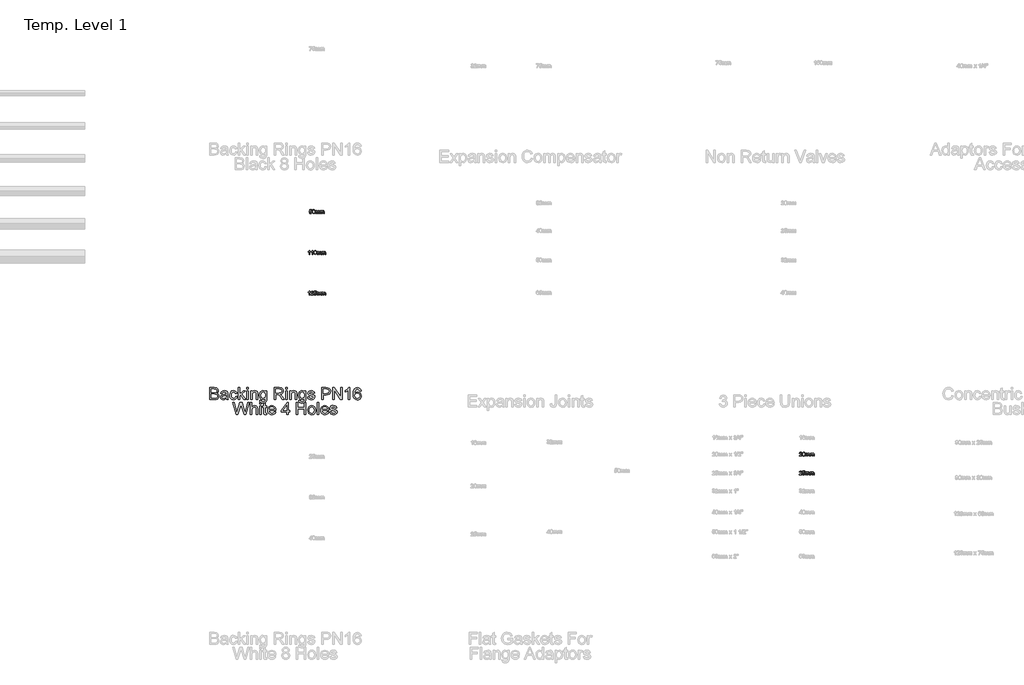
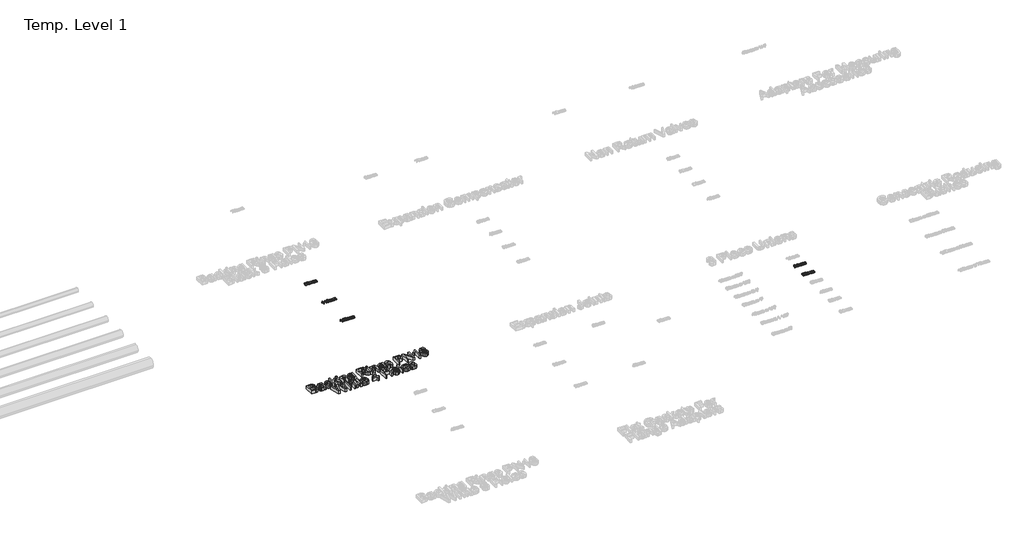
# One storey, part 14 of 62: 6 proxies.
"""IFC4 building model written with IfcOpenShell, lengths in millimetres."""

import ifcopenshell
import ifcopenshell.guid

model = None  # the IFC model being written
_history = None  # IfcOwnerHistory: only IFC2X3 demands one
_inside = {}  # id of a spatial element -> (the spatial element, [elements in it])
_under = {}  # id of a project, library or spatial element -> (it, [spatial elements below it])
_declared = {}  # id of a project -> (the project, [libraries it declares])
_typed = {}  # id of a type object -> (the type object, [elements of that type])
_made_of = {}  # id of a material, layer set ... -> (it, [elements and type objects made of it])


def new_model(schema):
    """Start an empty IFC model of exactly this schema.

    Asked for "IFC4X3", IfcOpenShell would pick the latest addendum, in which some entities
    have other attributes; the version numbers below select the first issue.
    IFC2X3 requires an IfcOwnerHistory on every rooted entity: one is made here for all.
    """
    global model, _history
    if schema == "IFC4X3":
        model = ifcopenshell.file(schema_version=(4, 3, 0, 0))
    else:
        model = ifcopenshell.file(schema=schema)
    _inside.clear()
    _under.clear()
    _declared.clear()
    _typed.clear()
    _made_of.clear()
    _history = None
    if model.schema == "IFC2X3":
        org = make("IfcOrganization", Name="unknown")
        user = make(
            "IfcPersonAndOrganization",
            ThePerson=make("IfcPerson", FamilyName="unknown"),
            TheOrganization=org,
        )
        app = make(
            "IfcApplication",
            ApplicationDeveloper=org,
            Version="unknown",
            ApplicationFullName="unknown",
            ApplicationIdentifier="unknown",
        )
        _history = make(
            "IfcOwnerHistory",
            OwningUser=user,
            OwningApplication=app,
            ChangeAction="ADDED",
            CreationDate=0,
        )
    return model


def make(cls, **values):
    """One entity of the class cls with the attributes given. An attribute that is None is left unset."""
    return model.create_entity(
        cls, **{name: value for name, value in values.items() if value is not None}
    )


def rooted(cls, **values):
    """An entity with a GlobalId (a new one), such as an element, a storey or a relation."""
    return make(cls, GlobalId=ifcopenshell.guid.new(), OwnerHistory=_history, **values)


def si_unit(unit_type, name, prefix=None):
    """IfcSIUnit, for example si_unit("LENGTHUNIT", "METRE", prefix="MILLI")."""
    return make("IfcSIUnit", UnitType=unit_type, Prefix=prefix, Name=name)


def assignment(units):
    """IfcUnitAssignment: the units of a project."""
    return None if units is None else make("IfcUnitAssignment", Units=units)


def point(xyz):
    """IfcCartesianPoint."""
    return None if xyz is None else make("IfcCartesianPoint", Coordinates=xyz)


def direction(xyz):
    """IfcDirection."""
    return None if xyz is None else make("IfcDirection", DirectionRatios=xyz)


def frame(location, z_axis=None, x_axis=None):
    """IfcAxis2Placement3D, a coordinate frame: its origin and axes. An axis left out is left unset."""
    return make(
        "IfcAxis2Placement3D",
        Location=point(location),
        Axis=direction(z_axis),
        RefDirection=direction(x_axis),
    )


def origin():
    """The frame at (0, 0, 0) with its axes left unset."""
    return frame((0.0, 0.0, 0.0))


def origin_with_axes():
    """The frame at (0, 0, 0) with the z axis (0, 0, 1) and the x axis (1, 0, 0) written out."""
    return frame((0.0, 0.0, 0.0), z_axis=(0.0, 0.0, 1.0), x_axis=(1.0, 0.0, 0.0))


def place(relative_to, where):
    """IfcLocalPlacement: puts the frame where relative to a parent placement (None: the world)."""
    return make(
        "IfcLocalPlacement", PlacementRelTo=relative_to, RelativePlacement=where
    )


def context(
    kind, dimensions, precision=None, world=None, true_north=None, identifier=None
):
    """IfcGeometricRepresentationContext, for example the 3D "Model" context."""
    return make(
        "IfcGeometricRepresentationContext",
        ContextIdentifier=identifier,
        ContextType=kind,
        CoordinateSpaceDimension=dimensions,
        Precision=precision,
        WorldCoordinateSystem=world,
        TrueNorth=true_north,
    )


def project(units=None, contexts=None):
    """IfcProject with its units and contexts."""
    return rooted(
        "IfcProject",
        Name="project",
        RepresentationContexts=contexts,
        UnitsInContext=assignment(units),
    )


def spatial(cls, under=None, at=None, **own):
    """A site, building, storey or space (cls), placed at a placement, below another one or the project."""
    s = rooted(cls, ObjectPlacement=at, **own)
    if under is not None:
        _under.setdefault(under.id(), (under, []))[1].append(s)
    return s


def polyline(points):
    """IfcPolyline through the points."""
    return make("IfcPolyline", Points=[point(p) for p in points])


def outline(outer, holes=None, kind="AREA"):
    """IfcArbitraryClosedProfileDef: a profile drawn as a closed curve; with holes, ...WithVoids."""
    if holes is None:
        return make("IfcArbitraryClosedProfileDef", ProfileType=kind, OuterCurve=outer)
    return make(
        "IfcArbitraryProfileDefWithVoids",
        ProfileType=kind,
        OuterCurve=outer,
        InnerCurves=holes,
    )


def extrude(swept, where, along, depth):
    """IfcExtrudedAreaSolid: the profile swept, set in the frame where, extruded along a direction by depth."""
    return make(
        "IfcExtrudedAreaSolid",
        SweptArea=swept,
        Position=where,
        ExtrudedDirection=direction(along),
        Depth=depth,
    )


def shape(context_of_items, identifier, shape_type, items):
    """IfcShapeRepresentation: the items that make up one representation, for example the "Body"."""
    return make(
        "IfcShapeRepresentation",
        ContextOfItems=context_of_items,
        RepresentationIdentifier=identifier,
        RepresentationType=shape_type,
        Items=items,
    )


def made_of(thing, what):
    """Note that an element or type object is made of a material, layer set ...; save() writes the relation."""
    if what is not None:
        _made_of.setdefault(what.id(), (what, []))[1].append(thing)
    return thing


def element(
    cls,
    number,
    at=None,
    inside=None,
    cuts=None,
    type_object=None,
    material=None,
    context=None,
    identifier="Body",
    shape_type=None,
    held_by="IfcProductDefinitionShape",
    body=None,
    shapes=None,
    **own,
):
    """One element of the class cls, such as IfcWall. Its Tag is "e" and its number.

    at: its placement. inside: the storey or other place that contains it. cuts: it is an
    opening in that element (IfcRelVoidsElement). A single representation is given by context,
    identifier, shape_type and body (its items); several are given by shapes. held_by: the class
    of the entity that holds the representations. save() writes the other relations.
    """
    e = rooted(cls, Tag="e%d" % number, ObjectPlacement=at, **own)
    if body is not None:
        shapes = [shape(context, identifier, shape_type, body)]
    if shapes is not None:
        e.Representation = make(held_by, Representations=shapes)
    if inside is not None:
        _inside.setdefault(inside.id(), (inside, []))[1].append(e)
    if cuts is not None:
        rooted(
            "IfcRelVoidsElement", RelatingBuildingElement=cuts, RelatedOpeningElement=e
        )
    if type_object is not None:
        _typed.setdefault(type_object.id(), (type_object, []))[1].append(e)
    return made_of(e, material)


def aggregate(whole, parts):
    """IfcRelAggregates: a whole, such as a stair, and the parts it consists of."""
    return rooted("IfcRelAggregates", RelatingObject=whole, RelatedObjects=parts)


def save(model, path):
    """Write the relations noted so far, then the file.

    IfcRelAggregates (storeys below a building ...), IfcRelContainedInSpatialStructure (elements
    in a storey), IfcRelDefinesByType, IfcRelAssociatesMaterial and IfcRelDeclares: one each for
    every whole, place, type object, material and project.
    """
    for whole, parts in _under.values():
        aggregate(whole, parts)
    for where, things in _inside.values():
        rooted(
            "IfcRelContainedInSpatialStructure",
            RelatedElements=things,
            RelatingStructure=where,
        )
    for kind, things in _typed.values():
        rooted("IfcRelDefinesByType", RelatedObjects=things, RelatingType=kind)
    for what, things in _made_of.values():
        rooted("IfcRelAssociatesMaterial", RelatedObjects=things, RelatingMaterial=what)
    for by, libraries in _declared.values():
        rooted("IfcRelDeclares", RelatingContext=by, RelatedDefinitions=libraries)
    model.write(path)


model = new_model("IFC4")

# Units and contexts
model_context = context("Model", 3, world=origin())
ifc_project = project(units=[si_unit("LENGTHUNIT", "METRE", prefix="MILLI")], contexts=[model_context])

# Site, building, storey
site = spatial("IfcSite", under=ifc_project)
building = spatial("IfcBuilding", under=site)
storey = spatial("IfcBuildingStorey", under=building, Name="Temp. Level 1", Elevation=0.0)

# Proxies
placement = place(None, origin())
element("IfcBuildingElementProxy", 1, Name="150mm Arial", ObjectType="150mm Arial", at=placement, inside=storey, context=model_context, shape_type="SweptSolid", body=[
    extrude(outline(polyline([(8496.1176365, -3979.0446709), (8496.1176365, -3831.3523632), (8552.4758096, -3831.3523632), (8580.0779731, -3835.6973151), (8589.3538144, -3841.2096348), (8596.37605, -3849.0566901), (8602.2714827, -3867.9509209), (8597.31355, -3885.2045266), (8582.3315788, -3898.2754401), (8592.7928168, -3903.7381805), (8600.5226846, -3912.0494786), (8605.2958216, -3922.6594545), (8606.8868673, -3935.0182286), (8602.5419154, -3954.8679882), (8591.7786942, -3969.0026036), (8575.7149923, -3976.5026036), (8552.0431173, -3979.0446709), (8496.1176365, -3979.0446709)]), holes=[polyline([(8514.579175, -3960.5831324), (8552.4397519, -3960.5831324), (8566.141675, -3959.8619786), (8577.7342231, -3955.8415459), (8585.4145115, -3947.6384209), (8588.4253288, -3935.198517), (8584.891675, -3920.8475555), (8573.4433577, -3912.2838536), (8550.6368673, -3909.8139016), (8514.579175, -3909.8139016), (8514.579175, -3960.5831324)]), polyline([(8514.579175, -3891.3523632), (8548.2931173, -3891.3523632), (8567.9806173, -3889.7658247), (8579.8255692, -3882.932892), (8583.8099442, -3870.9076516), (8580.0960019, -3858.8643824), (8569.4589827, -3851.7429882), (8545.7330212, -3849.8139016), (8514.579175, -3849.8139016), (8514.579175, -3891.3523632)])]), origin_with_axes(), (0.0, 0.0, 1.0), 50.0),
    extrude(outline(polyline([(8699.1945596, -3965.198517), (8681.2919154, -3977.7105362), (8661.5142712, -3981.3523632), (8646.0860861, -3979.1618584), (8634.7053769, -3972.5903439), (8627.6876486, -3962.6113776), (8625.3484058, -3950.198517), (8628.8820596, -3935.5951516), (8638.1669154, -3924.9941901), (8651.0935981, -3918.9364978), (8667.0671558, -3916.1600555), (8699.0863865, -3909.8139016), (8699.1945596, -3905.7033247), (8697.923526, -3897.464142), (8694.110425, -3892.073517), (8685.5827808, -3888.0711132), (8673.7017712, -3886.7369786), (8655.0238865, -3890.2886612), (8646.1176365, -3902.8908247), (8627.6560981, -3900.5831324), (8635.6428769, -3882.5542862), (8651.7246077, -3871.9893824), (8676.0815788, -3868.2754401), (8698.4553769, -3871.5566901), (8711.0935981, -3879.7958728), (8716.7546558, -3892.3259209), (8717.6560981, -3908.479767), (8717.6560981, -3931.448517), (8718.5935981, -3963.5218343), (8722.2714827, -3979.0446709), (8703.8099442, -3979.0446709), (8699.1945596, -3965.198517)]), holes=[polyline([(8699.1945596, -3928.2754401), (8669.4109058, -3933.9364978), (8653.5274923, -3936.9292862), (8646.3339827, -3941.7970747), (8643.8099442, -3948.9004401), (8649.3087423, -3958.8884209), (8665.4445596, -3962.8908247), (8684.1224442, -3958.4737574), (8696.1657135, -3947.7826516), (8699.0863865, -3933.5038055), (8699.1945596, -3928.2754401)])]), origin_with_axes(), (0.0, 0.0, 1.0), 50.0),
    extrude(outline(polyline([(8812.2714827, -3939.8139016), (8830.7330212, -3942.1215939), (8825.5857856, -3958.5413656), (8815.9133096, -3970.9497189), (8802.62605, -3978.7517021), (8786.6344635, -3981.3523632), (8766.9965428, -3977.7240579), (8751.6404731, -3966.839142), (8741.7291149, -3949.17538), (8738.4253288, -3925.2105362), (8744.0683577, -3894.5434689), (8751.1897519, -3883.0455723), (8761.2678769, -3874.8379401), (8773.3246678, -3869.9160651), (8786.3820596, -3868.2754401), (8801.9815188, -3870.5290459), (8814.4529731, -3877.2898632), (8823.399788, -3888.1973151), (8828.4253288, -3902.8908247), (8809.9637904, -3905.198517), (8801.4000885, -3891.370392), (8786.5262904, -3886.7369786), (8774.5957014, -3889.0176276), (8765.12605, -3895.8595747), (8758.946663, -3907.6324112), (8756.8868673, -3924.7057286), (8758.9015909, -3942.0089137), (8764.9457615, -3953.8223151), (8774.2441389, -3960.6236973), (8786.0214827, -3962.8908247), (8795.5812784, -3961.4755603), (8803.4193192, -3957.229767), (8809.1209418, -3950.0452718), (8812.2714827, -3939.8139016)])), origin_with_axes(), (0.0, 0.0, 1.0), 50.0),
    extrude(outline(polyline([(8846.8868673, -3979.0446709), (8846.8868673, -3831.3523632), (8865.3484058, -3831.3523632), (8865.3484058, -3910.7153439), (8906.7426365, -3870.5831324), (8932.2714827, -3870.5831324), (8890.3724442, -3911.2201516), (8934.579175, -3979.0446709), (8913.016675, -3979.0446709), (8877.1392712, -3924.0566901), (8865.3484058, -3935.4869786), (8865.3484058, -3979.0446709), (8846.8868673, -3979.0446709)])), origin_with_axes(), (0.0, 0.0, 1.0), 50.0),
    extrude(outline(polyline([(8950.7330212, -3979.0446709), (8950.7330212, -3870.5831324), (8969.1945596, -3870.5831324), (8969.1945596, -3979.0446709), (8950.7330212, -3979.0446709)])), origin_with_axes(), (0.0, 0.0, 1.0), 50.0),
    extrude(outline(polyline([(8950.7330212, -3849.8139016), (8950.7330212, -3831.3523632), (8969.1945596, -3831.3523632), (8969.1945596, -3849.8139016), (8950.7330212, -3849.8139016)])), origin_with_axes(), (0.0, 0.0, 1.0), 50.0),
    extrude(outline(polyline([(8996.8868673, -3979.0446709), (8996.8868673, -3870.5831324), (9015.3484058, -3870.5831324), (9015.3484058, -3885.7273632), (9029.4649923, -3872.6384209), (9048.7378288, -3868.2754401), (9066.1717231, -3871.7910651), (9078.0707615, -3881.0218343), (9083.6056173, -3894.5975555), (9084.579175, -3912.4461132), (9084.579175, -3979.0446709), (9066.1176365, -3979.0446709), (9066.1176365, -3914.9340939), (9063.9902327, -3898.5999593), (9056.4722038, -3889.964142), (9043.797925, -3886.7369786), (9032.9851245, -3888.5488776), (9023.7678769, -3893.9845747), (9017.4532736, -3904.4863776), (9015.3484058, -3921.4965939), (9015.3484058, -3979.0446709), (8996.8868673, -3979.0446709)])), origin_with_axes(), (0.0, 0.0, 1.0), 50.0),
    extrude(outline(polyline([(9105.3484058, -3988.2754401), (9123.8099442, -3990.5831324), (9129.7955212, -4000.3187093), (9147.7161942, -4004.4292862), (9166.610425, -3999.7778439), (9175.6248481, -3986.7249593), (9176.8868673, -3965.198517), (9163.8880692, -3975.5831324), (9148.0407135, -3979.0446709), (9129.0067591, -3975.0152237), (9114.81355, -3962.9268824), (9105.9839226, -3945.2045266), (9103.0407135, -3924.2730362), (9108.3231654, -3895.6612574), (9114.7865067, -3884.0461733), (9123.6116269, -3875.4148632), (9134.4965428, -3870.0602959), (9147.1392712, -3868.2754401), (9163.6086221, -3872.3139016), (9176.8868673, -3884.4292862), (9176.8868673, -3870.5831324), (9195.3484058, -3870.5831324), (9195.3484058, -3964.2249593), (9194.0863865, -3985.8460531), (9190.3003288, -4000.0843343), (9183.7783938, -4009.5269425), (9174.3087423, -4016.761017), (9162.0987063, -4021.3583728), (9147.3556173, -4022.8908247), (9130.1786341, -4020.7318704), (9116.6524923, -4014.2550074), (9107.9761101, -4003.4422069), (9105.3484058, -3988.2754401)]), holes=[polyline([(9121.5022519, -3923.011017), (9123.4719034, -3939.9446108), (9129.3808577, -3951.5867382), (9138.2645716, -3958.3340338), (9149.1585019, -3960.5831324), (9159.9713024, -3958.3475555), (9168.9000885, -3951.6408247), (9174.8901726, -3940.1474353), (9176.8868673, -3923.5518824), (9174.8315788, -3907.5467742), (9168.6657135, -3896.0218343), (9159.6062183, -3889.0581925), (9148.8700404, -3886.7369786), (9138.3276726, -3889.0221348), (9129.4890308, -3895.8776036), (9123.4989466, -3907.2312694), (9121.5022519, -3923.011017)])]), origin_with_axes(), (0.0, 0.0, 1.0), 50.0),
    extrude(outline(polyline([(9283.0407135, -3979.0446709), (9283.0407135, -3831.3523632), (9346.6825404, -3831.3523632), (9376.2318192, -3835.3367382), (9385.3273721, -3840.8535651), (9392.3856654, -3849.4352959), (9396.915413, -3860.0768223), (9398.4253288, -3871.7730362), (9395.9238264, -3886.3223151), (9388.4193192, -3898.3836132), (9375.6864466, -3907.2267622), (9357.4998481, -3912.1215939), (9367.9926365, -3920.0182286), (9382.9565788, -3939.0206324), (9407.5839827, -3979.0446709), (9386.1296558, -3979.0446709), (9366.9109058, -3948.4316901), (9353.0286942, -3928.167267), (9343.2750885, -3918.5939497), (9334.4950404, -3915.0783247), (9323.7859058, -3914.4292862), (9301.5022519, -3914.4292862), (9301.5022519, -3979.0446709), (9283.0407135, -3979.0446709)]), holes=[polyline([(9301.5022519, -3895.9677478), (9342.8243673, -3895.9677478), (9363.9000885, -3893.3535651), (9375.8712423, -3884.9881805), (9379.9637904, -3872.4581324), (9378.0121678, -3863.4527237), (9372.1573, -3856.1961132), (9362.0836822, -3851.4094545), (9347.4758096, -3849.8139016), (9301.5022519, -3849.8139016), (9301.5022519, -3895.9677478)])]), origin_with_axes(), (0.0, 0.0, 1.0), 50.0),
    extrude(outline(polyline([(9428.4253288, -3979.0446709), (9428.4253288, -3870.5831324), (9446.8868673, -3870.5831324), (9446.8868673, -3979.0446709), (9428.4253288, -3979.0446709)])), origin_with_axes(), (0.0, 0.0, 1.0), 50.0),
    extrude(outline(polyline([(9428.4253288, -3849.8139016), (9428.4253288, -3831.3523632), (9446.8868673, -3831.3523632), (9446.8868673, -3849.8139016), (9428.4253288, -3849.8139016)])), origin_with_axes(), (0.0, 0.0, 1.0), 50.0),
    extrude(outline(polyline([(9474.579175, -3979.0446709), (9474.579175, -3870.5831324), (9493.0407135, -3870.5831324), (9493.0407135, -3885.7273632), (9507.1573, -3872.6384209), (9526.4301365, -3868.2754401), (9543.8640308, -3871.7910651), (9555.7630692, -3881.0218343), (9561.297925, -3894.5975555), (9562.2714827, -3912.4461132), (9562.2714827, -3979.0446709), (9543.8099442, -3979.0446709), (9543.8099442, -3914.9340939), (9541.6825404, -3898.5999593), (9534.1645115, -3889.964142), (9521.4902327, -3886.7369786), (9510.6774322, -3888.5488776), (9501.4601846, -3893.9845747), (9495.1455813, -3904.4863776), (9493.0407135, -3921.4965939), (9493.0407135, -3979.0446709), (9474.579175, -3979.0446709)])), origin_with_axes(), (0.0, 0.0, 1.0), 50.0),
    extrude(outline(polyline([(9583.0407135, -3988.2754401), (9601.5022519, -3990.5831324), (9607.4878288, -4000.3187093), (9625.4085019, -4004.4292862), (9644.3027327, -3999.7778439), (9653.3171558, -3986.7249593), (9654.579175, -3965.198517), (9641.5803769, -3975.5831324), (9625.7330212, -3979.0446709), (9606.6990668, -3975.0152237), (9592.5058577, -3962.9268824), (9583.6762303, -3945.2045266), (9580.7330212, -3924.2730362), (9586.0154731, -3895.6612574), (9592.4788144, -3884.0461733), (9601.3039346, -3875.4148632), (9612.1888505, -3870.0602959), (9624.8315788, -3868.2754401), (9641.3009298, -3872.3139016), (9654.579175, -3884.4292862), (9654.579175, -3870.5831324), (9673.0407135, -3870.5831324), (9673.0407135, -3964.2249593), (9671.7786942, -3985.8460531), (9667.9926365, -4000.0843343), (9661.4707014, -4009.5269425), (9652.00105, -4016.761017), (9639.7910139, -4021.3583728), (9625.047925, -4022.8908247), (9607.8709418, -4020.7318704), (9594.3448, -4014.2550074), (9585.6684178, -4003.4422069), (9583.0407135, -3988.2754401)]), holes=[polyline([(9599.1945596, -3923.011017), (9601.1642111, -3939.9446108), (9607.0731654, -3951.5867382), (9615.9568793, -3958.3340338), (9626.8508096, -3960.5831324), (9637.6636101, -3958.3475555), (9646.5923962, -3951.6408247), (9652.5824803, -3940.1474353), (9654.579175, -3923.5518824), (9652.5238865, -3907.5467742), (9646.3580212, -3896.0218343), (9637.298526, -3889.0581925), (9626.5623481, -3886.7369786), (9616.0199803, -3889.0221348), (9607.1813385, -3895.8776036), (9601.1912543, -3907.2312694), (9599.1945596, -3923.011017)])]), origin_with_axes(), (0.0, 0.0, 1.0), 50.0),
    extrude(outline(polyline([(9693.8099442, -3946.7369786), (9712.2714827, -3944.4292862), (9715.1831413, -3952.3259209), (9720.8171558, -3958.1312093), (9740.3964827, -3962.8908247), (9759.2185981, -3958.5278439), (9765.3484058, -3948.2874593), (9759.1825404, -3939.9941901), (9740.1801365, -3934.729767), (9712.3796558, -3925.6973151), (9700.2462423, -3915.1504401), (9696.1176365, -3900.2586132), (9699.4349442, -3886.5026036), (9708.485425, -3875.9917862), (9720.2222038, -3870.5290459), (9736.1056173, -3868.2754401), (9758.5695596, -3871.8992382), (9772.8484058, -3881.7069305), (9779.1945596, -3898.2754401), (9760.7330212, -3900.5831324), (9753.7919154, -3890.3968343), (9737.547925, -3886.7369786), (9719.8796558, -3890.2345747), (9714.579175, -3898.3836132), (9716.7786942, -3903.7562093), (9723.6657135, -3907.8307286), (9739.5671558, -3911.761017), (9766.6645115, -3920.4509209), (9779.2486462, -3930.2946709), (9783.8099442, -3946.3403439), (9778.4553769, -3964.0086132), (9763.0046558, -3976.8271228), (9740.1440788, -3981.3523632), (9721.5292952, -3979.1708728), (9707.9445596, -3972.6264016), (9698.87605, -3961.7910651), (9693.8099442, -3946.7369786)])), origin_with_axes(), (0.0, 0.0, 1.0), 50.0),
    extrude(outline(polyline([(9864.579175, -3979.0446709), (9864.579175, -3831.3523632), (9919.3147519, -3831.3523632), (9941.3820596, -3832.7586132), (9959.3207615, -3839.6636612), (9970.9493673, -3853.9425074), (9975.3484058, -3874.0807286), (9972.3781534, -3891.4875795), (9963.4673962, -3905.9917862), (9946.8042351, -3915.7814497), (9920.5767712, -3919.0446709), (9883.0407135, -3919.0446709), (9883.0407135, -3979.0446709), (9864.579175, -3979.0446709)]), holes=[polyline([(9883.0407135, -3900.5831324), (9921.6585019, -3900.5831324), (9938.0286942, -3898.8884209), (9948.8460019, -3893.8042862), (9954.876651, -3885.6462334), (9956.8868673, -3874.729767), (9952.1452808, -3859.4413055), (9939.6873481, -3851.0759209), (9921.2258096, -3849.8139016), (9883.0407135, -3849.8139016), (9883.0407135, -3900.5831324)])]), origin_with_axes(), (0.0, 0.0, 1.0), 50.0),
    extrude(outline(polyline([(10000.7330212, -3979.0446709), (10000.7330212, -3831.3523632), (10020.4926365, -3831.3523632), (10097.6560981, -3948.3595747), (10097.6560981, -3831.3523632), (10116.1176365, -3831.3523632), (10116.1176365, -3979.0446709), (10096.3580212, -3979.0446709), (10019.1945596, -3862.0014016), (10019.1945596, -3979.0446709), (10000.7330212, -3979.0446709)])), origin_with_axes(), (0.0, 0.0, 1.0), 50.0),
    extrude(outline(polyline([(10210.7330212, -3979.0446709), (10192.2714827, -3979.0446709), (10192.2714827, -3863.948517), (10174.7835019, -3876.4064497), (10155.3484058, -3885.7273632), (10155.3484058, -3868.2754401), (10182.4097038, -3851.0038055), (10198.8339827, -3831.3523632), (10210.7330212, -3831.3523632), (10210.7330212, -3979.0446709)])), origin_with_axes(), (0.0, 0.0, 1.0), 50.0),
    extrude(outline(polyline([(10349.1945596, -3870.5831324), (10330.7330212, -3872.8908247), (10323.7378288, -3857.4941901), (10315.3634298, -3851.7339737), (10305.2402327, -3849.8139016), (10288.5815788, -3854.2850555), (10275.9794154, -3871.0699112), (10272.1527928, -3884.8214137), (10270.7330212, -3903.9725555), (10287.0130692, -3889.2429882), (10307.1873481, -3884.4292862), (10324.2426365, -3887.7195507), (10338.5575404, -3897.5903439), (10348.266074, -3912.6714737), (10351.5022519, -3931.5927478), (10349.9788144, -3944.8123992), (10345.4085019, -3957.0675074), (10338.1699202, -3967.4611372), (10328.641675, -3975.0963536), (10317.2564587, -3979.7883608), (10304.4469635, -3981.3523632), (10283.5019514, -3977.2057286), (10266.8207615, -3964.7658247), (10255.9088024, -3942.8066901), (10252.2714827, -3910.1023632), (10256.3099442, -3873.3325314), (10268.4253288, -3848.1913055), (10284.9667952, -3835.5620987), (10306.3940788, -3831.3523632), (10322.5929971, -3833.9575314), (10335.5647519, -3841.7730362), (10344.6512904, -3854.1858968), (10349.1945596, -3870.5831324)]), holes=[polyline([(10270.7330212, -3931.3042862), (10275.0058577, -3947.2958728), (10286.3640308, -3958.9064497), (10303.0046558, -3962.8908247), (10315.1876486, -3960.8265218), (10324.7654731, -3954.6336132), (10330.9719034, -3944.8980362), (10333.0407135, -3932.2057286), (10330.9989466, -3920.0227358), (10324.8736462, -3910.7333728), (10315.133562, -3904.8514617), (10302.2474442, -3902.8908247), (10290.0824803, -3904.8514617), (10279.9097038, -3910.7333728), (10273.0271918, -3919.7973752), (10270.7330212, -3931.3042862)])]), origin_with_axes(), (0.0, 0.0, 1.0), 50.0),
    extrude(outline(polyline([(8817.9325404, -4161.3523632), (8777.6560981, -4013.6600555), (8796.6945596, -4013.6600555), (8820.0599442, -4110.7273632), (8827.2714827, -4140.6913055), (8834.9878288, -4114.1889016), (8864.266675, -4013.6600555), (8891.7065788, -4013.6600555), (8912.9806173, -4086.5326516), (8928.8099442, -4140.6913055), (8935.8051365, -4111.5927478), (8959.3868673, -4013.6600555), (8978.4253288, -4013.6600555), (8938.1128288, -4161.3523632), (8918.3892712, -4161.3523632), (8882.9806173, -4047.4100555), (8878.0407135, -4031.5086132), (8872.4878288, -4050.6552478), (8840.2161942, -4161.3523632), (8817.9325404, -4161.3523632)])), origin_with_axes(), (0.0, 0.0, 1.0), 50.0),
    extrude(outline(polyline([(8994.579175, -4161.3523632), (8994.579175, -4013.6600555), (9013.0407135, -4013.6600555), (9013.0407135, -4067.9629401), (9027.4367471, -4054.9280843), (9045.1681173, -4050.5831324), (9065.9012904, -4055.3247189), (9078.485425, -4068.4316901), (9082.2714827, -4092.698517), (9082.2714827, -4161.3523632), (9063.8099442, -4161.3523632), (9063.8099442, -4094.6095747), (9062.3405933, -4083.0530843), (9057.9325404, -4075.1384209), (9050.829175, -4070.5681084), (9041.2738865, -4069.0446709), (9026.1476846, -4073.1552478), (9016.0515308, -4084.2970747), (9013.0407135, -4103.7321709), (9013.0407135, -4161.3523632), (8994.579175, -4161.3523632)])), origin_with_axes(), (0.0, 0.0, 1.0), 50.0),
    extrude(outline(polyline([(9107.6560981, -4032.1215939), (9107.6560981, -4013.6600555), (9126.1176365, -4013.6600555), (9126.1176365, -4032.1215939), (9107.6560981, -4032.1215939)])), origin_with_axes(), (0.0, 0.0, 1.0), 50.0),
    extrude(outline(polyline([(9107.6560981, -4161.3523632), (9107.6560981, -4052.8908247), (9126.1176365, -4052.8908247), (9126.1176365, -4161.3523632), (9107.6560981, -4161.3523632)])), origin_with_axes(), (0.0, 0.0, 1.0), 50.0),
    extrude(outline(polyline([(9193.0407135, -4145.9557286), (9195.3484058, -4161.8932286), (9181.5383096, -4163.6600555), (9166.0695596, -4160.5951516), (9158.3532135, -4152.5542862), (9156.1176365, -4131.604767), (9156.1176365, -4071.3523632), (9142.2714827, -4071.3523632), (9142.2714827, -4052.8908247), (9156.1176365, -4052.8908247), (9156.1176365, -4026.5326516), (9174.579175, -4015.6792862), (9174.579175, -4052.8908247), (9193.0407135, -4052.8908247), (9193.0407135, -4071.3523632), (9174.579175, -4071.3523632), (9174.579175, -4131.0639016), (9175.5527327, -4140.5831324), (9178.7077808, -4143.9545266), (9184.9998481, -4145.198517), (9193.0407135, -4145.9557286)])), origin_with_axes(), (0.0, 0.0, 1.0), 50.0),
    extrude(outline(polyline([(9287.4397519, -4129.0446709), (9305.5407135, -4131.3523632), (9299.0187784, -4144.9911853), (9288.6116269, -4155.1864978), (9274.5536341, -4161.5416661), (9257.079175, -4163.6600555), (9235.4175163, -4160.0047069), (9218.7498481, -4149.0386612), (9208.1218433, -4131.4740579), (9204.579175, -4108.0230362), (9208.157901, -4083.7832526), (9218.8940788, -4065.6552478), (9235.3363865, -4054.3511612), (9256.0335019, -4050.5831324), (9276.0860861, -4054.3421468), (9292.1092231, -4065.6191901), (9302.6155332, -4083.7111372), (9306.1176365, -4107.9148632), (9306.0094635, -4112.8908247), (9223.0407135, -4112.8908247), (9226.2363264, -4126.7099353), (9233.6597038, -4136.8691901), (9244.3733457, -4143.1161853), (9257.4397519, -4145.198517), (9275.5407135, -4141.3403439), (9287.4397519, -4129.0446709)]), holes=[polyline([(9223.0407135, -4094.4292862), (9287.6560981, -4094.4292862), (9285.1591029, -4084.6756805), (9280.2642712, -4077.698517), (9269.50105, -4071.2081324), (9255.9613865, -4069.0446709), (9243.5169755, -4070.7709329), (9233.2270115, -4075.9497189), (9226.0740668, -4084.0221348), (9223.0407135, -4094.4292862)])]), origin_with_axes(), (0.0, 0.0, 1.0), 50.0),
    extrude(outline(polyline([(9437.6560981, -4161.3523632), (9437.6560981, -4126.7369786), (9370.7330212, -4126.7369786), (9370.7330212, -4108.2754401), (9442.2714827, -4015.9677478), (9456.1176365, -4015.9677478), (9456.1176365, -4108.2754401), (9474.579175, -4108.2754401), (9474.579175, -4126.7369786), (9456.1176365, -4126.7369786), (9456.1176365, -4161.3523632), (9437.6560981, -4161.3523632)]), holes=[polyline([(9437.6560981, -4108.2754401), (9437.6560981, -4051.2321709), (9393.4493673, -4108.2754401), (9437.6560981, -4108.2754401)])]), origin_with_axes(), (0.0, 0.0, 1.0), 50.0),
    extrude(outline(polyline([(9555.3484058, -4161.3523632), (9555.3484058, -4013.6600555), (9573.8099442, -4013.6600555), (9573.8099442, -4073.6600555), (9652.2714827, -4073.6600555), (9652.2714827, -4013.6600555), (9670.7330212, -4013.6600555), (9670.7330212, -4161.3523632), (9652.2714827, -4161.3523632), (9652.2714827, -4092.1215939), (9573.8099442, -4092.1215939), (9573.8099442, -4161.3523632), (9555.3484058, -4161.3523632)])), origin_with_axes(), (0.0, 0.0, 1.0), 50.0),
    extrude(outline(polyline([(9696.1176365, -4107.1215939), (9700.111026, -4080.9707526), (9712.0911942, -4062.5903439), (9726.8928769, -4053.5849353), (9744.6152327, -4050.5831324), (9764.0097639, -4054.238481), (9779.50105, -4065.2045266), (9789.6557976, -4082.6158848), (9793.0407135, -4105.6071709), (9791.5443192, -4124.2580122), (9787.0551365, -4138.4557286), (9779.7038745, -4149.0882406), (9769.6212423, -4157.0434689), (9757.6455813, -4162.0059088), (9744.6152327, -4163.6600555), (9724.9863264, -4160.0182286), (9709.5130692, -4149.0927478), (9699.4664947, -4131.3163055), (9696.1176365, -4107.1215939)]), holes=[polyline([(9714.579175, -4107.0855362), (9716.7155933, -4123.7937694), (9723.1248481, -4135.6973151), (9732.7702808, -4142.8232165), (9744.6152327, -4145.198517), (9756.4060981, -4142.8096949), (9766.0335019, -4135.6432286), (9772.4427567, -4123.5819305), (9774.579175, -4106.5086132), (9772.4292351, -4090.2871588), (9765.9794154, -4078.5458728), (9756.3384899, -4071.4199713), (9744.6152327, -4069.0446709), (9732.7702808, -4071.4109569), (9723.1248481, -4078.5098151), (9716.7155933, -4090.3863175), (9714.579175, -4107.0855362)])]), origin_with_axes(), (0.0, 0.0, 1.0), 50.0),
    extrude(outline(polyline([(9813.8099442, -4161.3523632), (9813.8099442, -4013.6600555), (9832.2714827, -4013.6600555), (9832.2714827, -4161.3523632), (9813.8099442, -4161.3523632)])), origin_with_axes(), (0.0, 0.0, 1.0), 50.0),
    extrude(outline(polyline([(9935.9012904, -4129.0446709), (9954.0022519, -4131.3523632), (9947.4803168, -4144.9911853), (9937.0731654, -4155.1864978), (9923.0151726, -4161.5416661), (9905.5407135, -4163.6600555), (9883.8790548, -4160.0047069), (9867.2113865, -4149.0386612), (9856.5833817, -4131.4740579), (9853.0407135, -4108.0230362), (9856.6194394, -4083.7832526), (9867.3556173, -4065.6552478), (9883.797925, -4054.3511612), (9904.4950404, -4050.5831324), (9924.5476245, -4054.3421468), (9940.5707615, -4065.6191901), (9951.0770716, -4083.7111372), (9954.579175, -4107.9148632), (9954.4710019, -4112.8908247), (9871.5022519, -4112.8908247), (9874.6978649, -4126.7099353), (9882.1212423, -4136.8691901), (9892.8348841, -4143.1161853), (9905.9012904, -4145.198517), (9924.0022519, -4141.3403439), (9935.9012904, -4129.0446709)]), holes=[polyline([(9871.5022519, -4094.4292862), (9936.1176365, -4094.4292862), (9933.6206413, -4084.6756805), (9928.7258096, -4077.698517), (9917.9625885, -4071.2081324), (9904.422925, -4069.0446709), (9891.9785139, -4070.7709329), (9881.68855, -4075.9497189), (9874.5356053, -4084.0221348), (9871.5022519, -4094.4292862)])]), origin_with_axes(), (0.0, 0.0, 1.0), 50.0),
    extrude(outline(polyline([(9966.1176365, -4129.0446709), (9984.579175, -4126.7369786), (9987.4908337, -4134.6336132), (9993.1248481, -4140.4389016), (10012.704175, -4145.198517), (10031.5262904, -4140.8355362), (10037.6560981, -4130.5951516), (10031.4902327, -4122.3018824), (10012.4878288, -4117.0374593), (9984.6873481, -4108.0050074), (9972.5539346, -4097.4581324), (9968.4253288, -4082.5663055), (9971.7426365, -4068.8102959), (9980.7931173, -4058.2994786), (9992.5298962, -4052.8367382), (10008.4133096, -4050.5831324), (10030.8772519, -4054.2069305), (10045.1560981, -4064.0146228), (10051.5022519, -4080.5831324), (10033.0407135, -4082.8908247), (10026.0996077, -4072.7045266), (10009.8556173, -4069.0446709), (9992.1873481, -4072.542267), (9986.8868673, -4080.6913055), (9989.0863865, -4086.0639016), (9995.9734058, -4090.1384209), (10011.8748481, -4094.0687093), (10038.9722038, -4102.7586132), (10051.5563385, -4112.6023632), (10056.1176365, -4128.6480362), (10050.7630692, -4146.3163055), (10035.3123481, -4159.1348151), (10012.4517712, -4163.6600555), (9993.8369875, -4161.4785651), (9980.2522519, -4154.9340939), (9971.1837423, -4144.0987574), (9966.1176365, -4129.0446709)])), origin_with_axes(), (0.0, 0.0, 1.0), 50.0),
])
element("IfcBuildingElementProxy", 2, Name="50mm Arial", ObjectType="50mm Arial", at=placement, inside=storey, context=model_context, shape_type="SweptSolid", body=[
    extrude(outline(polyline([(9715.3245939, -1684.6523349), (9721.4784401, -1683.8831042), (9724.5794016, -1690.2232484), (9731.0096901, -1692.3446426), (9738.7260362, -1689.3939215), (9741.4784401, -1681.5633926), (9738.9003151, -1674.2557003), (9731.1058439, -1671.5754118), (9725.7031997, -1672.6451234), (9722.2476708, -1675.4215657), (9716.0938247, -1674.6523349), (9721.4784401, -1649.2677195), (9745.3245939, -1649.2677195), (9745.3245939, -1655.4215657), (9726.4544016, -1655.4215657), (9723.8221901, -1668.979258), (9732.8245939, -1665.4215657), (9743.3474304, -1669.8326234), (9747.6322862, -1681.1787772), (9743.7741131, -1692.5970465), (9738.2332477, -1697.0231282), (9730.9856516, -1698.4984888), (9720.1262766, -1694.7064215), (9715.3245939, -1684.6523349)])), origin_with_axes(), (0.0, 0.0, 1.0), 15.0),
    extrude(outline(polyline([(9753.0169016, -1673.510508), (9754.8257958, -1659.3458445), (9760.198392, -1651.1787772), (9769.1707477, -1648.4984888), (9776.3582477, -1650.0850272), (9781.3221901, -1654.6583445), (9784.2068054, -1661.9419984), (9785.3245939, -1673.510508), (9783.5337285, -1687.6150753), (9778.1791612, -1695.8001715), (9769.1707477, -1698.4984888), (9757.9207477, -1693.8109888), (9754.2428631, -1685.4846667), (9753.0169016, -1673.510508)]), holes=[polyline([(9759.1707477, -1673.4984888), (9762.0553631, -1688.7809407), (9769.1707477, -1692.3446426), (9776.2861324, -1688.7689215), (9779.1707477, -1673.4984888), (9776.3822862, -1658.3903157), (9769.0986324, -1654.6523349), (9762.151517, -1657.9456042), (9759.1707477, -1673.4984888)])]), origin_with_axes(), (0.0, 0.0, 1.0), 15.0),
    extrude(outline(polyline([(9792.2476708, -1697.729258), (9792.2476708, -1661.5754118), (9798.401517, -1661.5754118), (9798.401517, -1667.5249311), (9802.6322862, -1662.651133), (9808.6539208, -1660.8061811), (9814.8197862, -1662.6871907), (9818.2092093, -1667.9576234), (9823.010892, -1662.5940417), (9829.0745939, -1660.8061811), (9837.1214689, -1663.7809407), (9839.9399785, -1672.9456042), (9839.9399785, -1697.729258), (9833.7861324, -1697.729258), (9833.7861324, -1675.5898349), (9833.2152189, -1670.4516138), (9831.1479112, -1667.9215657), (9827.6322862, -1666.9600272), (9821.5806035, -1669.4239695), (9819.1707477, -1677.3206042), (9819.1707477, -1697.729258), (9813.0169016, -1697.729258), (9813.0169016, -1674.9047388), (9811.5926227, -1668.9432003), (9806.9231516, -1666.9600272), (9802.3678631, -1668.2821426), (9799.339017, -1672.1523349), (9798.401517, -1679.4960849), (9798.401517, -1697.729258), (9792.2476708, -1697.729258)])), origin_with_axes(), (0.0, 0.0, 1.0), 15.0),
    extrude(outline(polyline([(9849.1707477, -1697.729258), (9849.1707477, -1661.5754118), (9855.3245939, -1661.5754118), (9855.3245939, -1667.5249311), (9859.5553631, -1662.651133), (9865.5769977, -1660.8061811), (9871.7428631, -1662.6871907), (9875.1322862, -1667.9576234), (9879.9339689, -1662.5940417), (9885.9976708, -1660.8061811), (9894.0445458, -1663.7809407), (9896.8630554, -1672.9456042), (9896.8630554, -1697.729258), (9890.7092093, -1697.729258), (9890.7092093, -1675.5898349), (9890.1382958, -1670.4516138), (9888.0709881, -1667.9215657), (9884.5553631, -1666.9600272), (9878.5036804, -1669.4239695), (9876.0938247, -1677.3206042), (9876.0938247, -1697.729258), (9869.9399785, -1697.729258), (9869.9399785, -1674.9047388), (9868.5156997, -1668.9432003), (9863.8462285, -1666.9600272), (9859.2909401, -1668.2821426), (9856.2620939, -1672.1523349), (9855.3245939, -1679.4960849), (9855.3245939, -1697.729258), (9849.1707477, -1697.729258)])), origin_with_axes(), (0.0, 0.0, 1.0), 15.0),
])
element("IfcBuildingElementProxy", 3, Name="50mm Arial", ObjectType="50mm Arial", at=placement, inside=storey, context=model_context, shape_type="SweptSolid", body=[
    extrude(outline(polyline([(9719.5553631, -2197.729258), (9713.401517, -2197.729258), (9713.401517, -2159.3638734), (9707.5721901, -2163.5165176), (9701.0938247, -2166.6234888), (9701.0938247, -2160.8061811), (9710.1142574, -2155.0489695), (9715.589017, -2148.4984888), (9719.5553631, -2148.4984888), (9719.5553631, -2197.729258)])), origin_with_axes(), (0.0, 0.0, 1.0), 15.0),
    extrude(outline(polyline([(9757.2476708, -2197.729258), (9751.0938247, -2197.729258), (9751.0938247, -2159.3638734), (9745.2644977, -2163.5165176), (9738.7861324, -2166.6234888), (9738.7861324, -2160.8061811), (9747.8065651, -2155.0489695), (9753.2813247, -2148.4984888), (9757.2476708, -2148.4984888), (9757.2476708, -2197.729258)])), origin_with_axes(), (0.0, 0.0, 1.0), 15.0),
    extrude(outline(polyline([(9771.8630554, -2173.510508), (9773.6719497, -2159.3458445), (9779.0445458, -2151.1787772), (9788.0169016, -2148.4984888), (9795.2044016, -2150.0850272), (9800.1683439, -2154.6583445), (9803.0529593, -2161.9419984), (9804.1707477, -2173.510508), (9802.3798824, -2187.6150753), (9797.0253151, -2195.8001715), (9788.0169016, -2198.4984888), (9776.7669016, -2193.8109888), (9773.089017, -2185.4846667), (9771.8630554, -2173.510508)]), holes=[polyline([(9778.0169016, -2173.4984888), (9780.901517, -2188.7809407), (9788.0169016, -2192.3446426), (9795.1322862, -2188.7689215), (9798.0169016, -2173.4984888), (9795.2284401, -2158.3903157), (9787.9447862, -2154.6523349), (9780.9976708, -2157.9456042), (9778.0169016, -2173.4984888)])]), origin_with_axes(), (0.0, 0.0, 1.0), 15.0),
    extrude(outline(polyline([(9811.0938247, -2197.729258), (9811.0938247, -2161.5754118), (9817.2476708, -2161.5754118), (9817.2476708, -2167.5249311), (9821.4784401, -2162.651133), (9827.5000747, -2160.8061811), (9833.6659401, -2162.6871907), (9837.0553631, -2167.9576234), (9841.8570458, -2162.5940417), (9847.9207477, -2160.8061811), (9855.9676227, -2163.7809407), (9858.7861324, -2172.9456042), (9858.7861324, -2197.729258), (9852.6322862, -2197.729258), (9852.6322862, -2175.5898349), (9852.0613727, -2170.4516138), (9849.9940651, -2167.9215657), (9846.4784401, -2166.9600272), (9840.4267574, -2169.4239695), (9838.0169016, -2177.3206042), (9838.0169016, -2197.729258), (9831.8630554, -2197.729258), (9831.8630554, -2174.9047388), (9830.4387766, -2168.9432003), (9825.7693054, -2166.9600272), (9821.214017, -2168.2821426), (9818.1851708, -2172.1523349), (9817.2476708, -2179.4960849), (9817.2476708, -2197.729258), (9811.0938247, -2197.729258)])), origin_with_axes(), (0.0, 0.0, 1.0), 15.0),
    extrude(outline(polyline([(9868.0169016, -2197.729258), (9868.0169016, -2161.5754118), (9874.1707477, -2161.5754118), (9874.1707477, -2167.5249311), (9878.401517, -2162.651133), (9884.4231516, -2160.8061811), (9890.589017, -2162.6871907), (9893.9784401, -2167.9576234), (9898.7801227, -2162.5940417), (9904.8438247, -2160.8061811), (9912.8906997, -2163.7809407), (9915.7092093, -2172.9456042), (9915.7092093, -2197.729258), (9909.5553631, -2197.729258), (9909.5553631, -2175.5898349), (9908.9844497, -2170.4516138), (9906.917142, -2167.9215657), (9903.401517, -2166.9600272), (9897.3498343, -2169.4239695), (9894.9399785, -2177.3206042), (9894.9399785, -2197.729258), (9888.7861324, -2197.729258), (9888.7861324, -2174.9047388), (9887.3618535, -2168.9432003), (9882.6923824, -2166.9600272), (9878.1370939, -2168.2821426), (9875.1082477, -2172.1523349), (9874.1707477, -2179.4960849), (9874.1707477, -2197.729258), (9868.0169016, -2197.729258)])), origin_with_axes(), (0.0, 0.0, 1.0), 15.0),
])
element("IfcBuildingElementProxy", 4, Name="50mm Arial", ObjectType="50mm Arial", at=placement, inside=storey, context=model_context, shape_type="SweptSolid", body=[
    extrude(outline(polyline([(9719.5553631, -2697.729258), (9713.401517, -2697.729258), (9713.401517, -2659.3638734), (9707.5721901, -2663.5165176), (9701.0938247, -2666.6234888), (9701.0938247, -2660.8061811), (9710.1142574, -2655.0489695), (9715.589017, -2648.4984888), (9719.5553631, -2648.4984888), (9719.5553631, -2697.729258)])), origin_with_axes(), (0.0, 0.0, 1.0), 15.0),
    extrude(outline(polyline([(9765.7092093, -2691.5754118), (9765.7092093, -2697.729258), (9733.401517, -2697.729258), (9734.0625747, -2693.4864695), (9737.8005554, -2686.9540176), (9745.5048824, -2679.8206042), (9756.1298824, -2669.5682003), (9758.7861324, -2662.5970465), (9756.2801227, -2656.9540176), (9749.7356516, -2654.6523349), (9742.9147381, -2656.8999311), (9740.3245939, -2663.1138734), (9734.1707477, -2662.3446426), (9738.8882958, -2652.0441618), (9749.8678631, -2648.4984888), (9760.8834881, -2652.4407965), (9764.9399785, -2662.2244503), (9763.8462285, -2668.0597868), (9760.2104112, -2674.0934407), (9751.3943054, -2682.5249311), (9744.3149785, -2688.4444022), (9741.5385362, -2691.5754118), (9765.7092093, -2691.5754118)])), origin_with_axes(), (0.0, 0.0, 1.0), 15.0),
    extrude(outline(polyline([(9771.8630554, -2684.6523349), (9778.0169016, -2683.8831042), (9781.1178631, -2690.2232484), (9787.5481516, -2692.3446426), (9795.2644977, -2689.3939215), (9798.0169016, -2681.5633926), (9795.4387766, -2674.2557003), (9787.6443054, -2671.5754118), (9782.2416612, -2672.6451234), (9778.7861324, -2675.4215657), (9772.6322862, -2674.6523349), (9778.0169016, -2649.2677195), (9801.8630554, -2649.2677195), (9801.8630554, -2655.4215657), (9782.9928631, -2655.4215657), (9780.3606516, -2668.979258), (9789.3630554, -2665.4215657), (9799.885892, -2669.8326234), (9804.1707477, -2681.1787772), (9800.3125747, -2692.5970465), (9794.7717093, -2697.0231282), (9787.5241131, -2698.4984888), (9776.6647381, -2694.7064215), (9771.8630554, -2684.6523349)])), origin_with_axes(), (0.0, 0.0, 1.0), 15.0),
    extrude(outline(polyline([(9811.0938247, -2697.729258), (9811.0938247, -2661.5754118), (9817.2476708, -2661.5754118), (9817.2476708, -2667.5249311), (9821.4784401, -2662.651133), (9827.5000747, -2660.8061811), (9833.6659401, -2662.6871907), (9837.0553631, -2667.9576234), (9841.8570458, -2662.5940417), (9847.9207477, -2660.8061811), (9855.9676227, -2663.7809407), (9858.7861324, -2672.9456042), (9858.7861324, -2697.729258), (9852.6322862, -2697.729258), (9852.6322862, -2675.5898349), (9852.0613727, -2670.4516138), (9849.9940651, -2667.9215657), (9846.4784401, -2666.9600272), (9840.4267574, -2669.4239695), (9838.0169016, -2677.3206042), (9838.0169016, -2697.729258), (9831.8630554, -2697.729258), (9831.8630554, -2674.9047388), (9830.4387766, -2668.9432003), (9825.7693054, -2666.9600272), (9821.214017, -2668.2821426), (9818.1851708, -2672.1523349), (9817.2476708, -2679.4960849), (9817.2476708, -2697.729258), (9811.0938247, -2697.729258)])), origin_with_axes(), (0.0, 0.0, 1.0), 15.0),
    extrude(outline(polyline([(9868.0169016, -2697.729258), (9868.0169016, -2661.5754118), (9874.1707477, -2661.5754118), (9874.1707477, -2667.5249311), (9878.401517, -2662.651133), (9884.4231516, -2660.8061811), (9890.589017, -2662.6871907), (9893.9784401, -2667.9576234), (9898.7801227, -2662.5940417), (9904.8438247, -2660.8061811), (9912.8906997, -2663.7809407), (9915.7092093, -2672.9456042), (9915.7092093, -2697.729258), (9909.5553631, -2697.729258), (9909.5553631, -2675.5898349), (9908.9844497, -2670.4516138), (9906.917142, -2667.9215657), (9903.401517, -2666.9600272), (9897.3498343, -2669.4239695), (9894.9399785, -2677.3206042), (9894.9399785, -2697.729258), (9888.7861324, -2697.729258), (9888.7861324, -2674.9047388), (9887.3618535, -2668.9432003), (9882.6923824, -2666.9600272), (9878.1370939, -2668.2821426), (9875.1082477, -2672.1523349), (9874.1707477, -2679.4960849), (9874.1707477, -2697.729258), (9868.0169016, -2697.729258)])), origin_with_axes(), (0.0, 0.0, 1.0), 15.0),
])
element("IfcBuildingElementProxy", 5, Name="50mm Arial", ObjectType="50mm Arial", at=placement, inside=storey, context=model_context, shape_type="SweptSolid", body=[
    extrude(outline(polyline([(15750.4059201, -4665.3221497), (15750.4059201, -4671.4759959), (15718.0982278, -4671.4759959), (15718.7592855, -4667.2332074), (15722.4972663, -4660.7007555), (15730.2015932, -4653.567342), (15740.8265932, -4643.3149382), (15743.4828432, -4636.3437843), (15740.9768336, -4630.7007555), (15734.4323624, -4628.3990728), (15727.611449, -4630.646669), (15725.0213047, -4636.8606113), (15718.8674586, -4636.0913805), (15723.5850067, -4625.7908997), (15734.564574, -4622.2452267), (15745.580199, -4626.1875343), (15749.6366894, -4635.9711882), (15748.5429394, -4641.8065247), (15744.9071221, -4647.8401786), (15736.0910163, -4656.271669), (15729.0116894, -4662.1911401), (15726.2352471, -4665.3221497), (15750.4059201, -4665.3221497)])), origin_with_axes(), (0.0, 0.0, 1.0), 15.0),
    extrude(outline(polyline([(15756.5597663, -4647.2572459), (15758.3686605, -4633.0925824), (15763.7412567, -4624.9255151), (15772.7136124, -4622.2452267), (15779.9011124, -4623.8317651), (15784.8650547, -4628.4050824), (15787.7496701, -4635.6887363), (15788.8674586, -4647.2572459), (15787.0765932, -4661.3618132), (15781.7220259, -4669.5469093), (15772.7136124, -4672.2452267), (15761.4636124, -4667.5577267), (15757.7857278, -4659.2314045), (15756.5597663, -4647.2572459)]), holes=[polyline([(15762.7136124, -4647.2452267), (15765.5982278, -4662.5276786), (15772.7136124, -4666.0913805), (15779.8289971, -4662.5156593), (15782.7136124, -4647.2452267), (15779.9251509, -4632.1370536), (15772.6414971, -4628.3990728), (15765.6943817, -4631.692342), (15762.7136124, -4647.2452267)])]), origin_with_axes(), (0.0, 0.0, 1.0), 15.0),
    extrude(outline(polyline([(15795.7905355, -4671.4759959), (15795.7905355, -4635.3221497), (15801.9443817, -4635.3221497), (15801.9443817, -4641.271669), (15806.1751509, -4636.3978709), (15812.1967855, -4634.552919), (15818.3626509, -4636.4339286), (15821.752074, -4641.7043613), (15826.5537567, -4636.3407795), (15832.6174586, -4634.552919), (15840.6643336, -4637.5276786), (15843.4828432, -4646.692342), (15843.4828432, -4671.4759959), (15837.3289971, -4671.4759959), (15837.3289971, -4649.3365728), (15836.7580836, -4644.1983517), (15834.6907759, -4641.6683036), (15831.1751509, -4640.7067651), (15825.1234682, -4643.1707074), (15822.7136124, -4651.067342), (15822.7136124, -4671.4759959), (15816.5597663, -4671.4759959), (15816.5597663, -4648.6514767), (15815.1354874, -4642.6899382), (15810.4660163, -4640.7067651), (15805.9107278, -4642.0288805), (15802.8818817, -4645.8990728), (15801.9443817, -4653.2428228), (15801.9443817, -4671.4759959), (15795.7905355, -4671.4759959)])), origin_with_axes(), (0.0, 0.0, 1.0), 15.0),
    extrude(outline(polyline([(15852.7136124, -4671.4759959), (15852.7136124, -4635.3221497), (15858.8674586, -4635.3221497), (15858.8674586, -4641.271669), (15863.0982278, -4636.3978709), (15869.1198624, -4634.552919), (15875.2857278, -4636.4339286), (15878.6751509, -4641.7043613), (15883.4768336, -4636.3407795), (15889.5405355, -4634.552919), (15897.5874105, -4637.5276786), (15900.4059201, -4646.692342), (15900.4059201, -4671.4759959), (15894.252074, -4671.4759959), (15894.252074, -4649.3365728), (15893.6811605, -4644.1983517), (15891.6138528, -4641.6683036), (15888.0982278, -4640.7067651), (15882.0465451, -4643.1707074), (15879.6366894, -4651.067342), (15879.6366894, -4671.4759959), (15873.4828432, -4671.4759959), (15873.4828432, -4648.6514767), (15872.0585644, -4642.6899382), (15867.3890932, -4640.7067651), (15862.8338047, -4642.0288805), (15859.8049586, -4645.8990728), (15858.8674586, -4653.2428228), (15858.8674586, -4671.4759959), (15852.7136124, -4671.4759959)])), origin_with_axes(), (0.0, 0.0, 1.0), 15.0),
])
element("IfcBuildingElementProxy", 6, Name="50mm Arial", ObjectType="50mm Arial", at=placement, inside=storey, context=model_context, shape_type="SweptSolid", body=[
    extrude(outline(polyline([(15750.4059201, -4895.3221497), (15750.4059201, -4901.4759959), (15718.0982278, -4901.4759959), (15718.7592855, -4897.2332074), (15722.4972663, -4890.7007555), (15730.2015932, -4883.567342), (15740.8265932, -4873.3149382), (15743.4828432, -4866.3437843), (15740.9768336, -4860.7007555), (15734.4323624, -4858.3990728), (15727.611449, -4860.646669), (15725.0213047, -4866.8606113), (15718.8674586, -4866.0913805), (15723.5850067, -4855.7908997), (15734.564574, -4852.2452267), (15745.580199, -4856.1875343), (15749.6366894, -4865.9711882), (15748.5429394, -4871.8065247), (15744.9071221, -4877.8401786), (15736.0910163, -4886.271669), (15729.0116894, -4892.1911401), (15726.2352471, -4895.3221497), (15750.4059201, -4895.3221497)])), origin_with_axes(), (0.0, 0.0, 1.0), 15.0),
    extrude(outline(polyline([(15756.5597663, -4888.3990728), (15762.7136124, -4887.629842), (15765.814574, -4893.9699863), (15772.2448624, -4896.0913805), (15779.9612086, -4893.1406593), (15782.7136124, -4885.3101305), (15780.1354874, -4878.0024382), (15772.3410163, -4875.3221497), (15766.9383721, -4876.3918613), (15763.4828432, -4879.1683036), (15757.3289971, -4878.3990728), (15762.7136124, -4853.0144574), (15786.5597663, -4853.0144574), (15786.5597663, -4859.1683036), (15767.689574, -4859.1683036), (15765.0573624, -4872.7259959), (15774.0597663, -4869.1683036), (15784.5826028, -4873.5793613), (15788.8674586, -4884.9255151), (15785.0092855, -4896.3437843), (15779.4684201, -4900.7698661), (15772.220824, -4902.2452267), (15761.361449, -4898.4531593), (15756.5597663, -4888.3990728)])), origin_with_axes(), (0.0, 0.0, 1.0), 15.0),
    extrude(outline(polyline([(15795.7905355, -4901.4759959), (15795.7905355, -4865.3221497), (15801.9443817, -4865.3221497), (15801.9443817, -4871.271669), (15806.1751509, -4866.3978709), (15812.1967855, -4864.552919), (15818.3626509, -4866.4339286), (15821.752074, -4871.7043613), (15826.5537567, -4866.3407795), (15832.6174586, -4864.552919), (15840.6643336, -4867.5276786), (15843.4828432, -4876.692342), (15843.4828432, -4901.4759959), (15837.3289971, -4901.4759959), (15837.3289971, -4879.3365728), (15836.7580836, -4874.1983517), (15834.6907759, -4871.6683036), (15831.1751509, -4870.7067651), (15825.1234682, -4873.1707074), (15822.7136124, -4881.067342), (15822.7136124, -4901.4759959), (15816.5597663, -4901.4759959), (15816.5597663, -4878.6514767), (15815.1354874, -4872.6899382), (15810.4660163, -4870.7067651), (15805.9107278, -4872.0288805), (15802.8818817, -4875.8990728), (15801.9443817, -4883.2428228), (15801.9443817, -4901.4759959), (15795.7905355, -4901.4759959)])), origin_with_axes(), (0.0, 0.0, 1.0), 15.0),
    extrude(outline(polyline([(15852.7136124, -4901.4759959), (15852.7136124, -4865.3221497), (15858.8674586, -4865.3221497), (15858.8674586, -4871.271669), (15863.0982278, -4866.3978709), (15869.1198624, -4864.552919), (15875.2857278, -4866.4339286), (15878.6751509, -4871.7043613), (15883.4768336, -4866.3407795), (15889.5405355, -4864.552919), (15897.5874105, -4867.5276786), (15900.4059201, -4876.692342), (15900.4059201, -4901.4759959), (15894.252074, -4901.4759959), (15894.252074, -4879.3365728), (15893.6811605, -4874.1983517), (15891.6138528, -4871.6683036), (15888.0982278, -4870.7067651), (15882.0465451, -4873.1707074), (15879.6366894, -4881.067342), (15879.6366894, -4901.4759959), (15873.4828432, -4901.4759959), (15873.4828432, -4878.6514767), (15872.0585644, -4872.6899382), (15867.3890932, -4870.7067651), (15862.8338047, -4872.0288805), (15859.8049586, -4875.8990728), (15858.8674586, -4883.2428228), (15858.8674586, -4901.4759959), (15852.7136124, -4901.4759959)])), origin_with_axes(), (0.0, 0.0, 1.0), 15.0),
])

save(model, "model.ifc")
